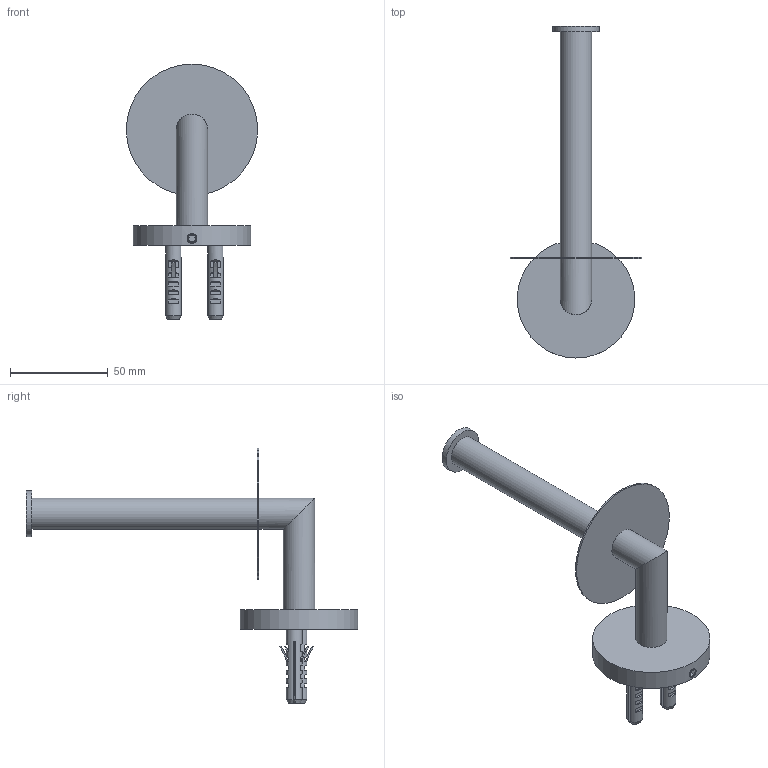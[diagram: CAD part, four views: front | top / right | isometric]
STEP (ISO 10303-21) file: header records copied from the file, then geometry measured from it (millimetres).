
FILE_DESCRIPTION(/* description */ (''),/* implementation_level */ '2;1');
FILE_NAME(/* name */ 'c:\worker\convert-fusion-mar-2019\tmp\job-1\3\output\files\de508112-8a08-48e9-a563-d3e8cf9a2829\f28002d6-5840-4c77-8abd-8bbc1774b381.zip.stp',/* time_stamp */ '2019-03-22T07:49:42+00:00',/* author */ (''),/* organization */ (''),/* preprocessor_version */ 'ST-DEVELOPER v17.2',/* originating_system */ 'Autodesk Translation Framework v7.6.0.251',/* authorisation */ '');
FILE_SCHEMA (('AUTOMOTIVE_DESIGN { 1 0 10303 214 3 1 1 }'));
Products named in the file (1): !MP60530
Bounding box: 67 x 169.3 x 130.5 mm (x, y, z)
Volume: 37133.1 mm3; surface area: 44337.5 mm2
Topology: 16 solids, 16 shells, 698 faces, 1846 edges, 1204 vertices
Faces by surface type: plane 287, cylinder 228, bspline 137, cone 30, torus 16
Full cylindrical faces by diameter (mm): 3.8 x62, 4.2 x4, 5 x41, 5.126 x2, 6 x1, 7.5 x2, 8 x2, 11 x1, 14.3 x1, 14.4 x1, 16 x3, 23.5 x1, 60 x1, 67 x1
Entity records: 64732 total; most frequent: CARTESIAN_POINT 48557, ORIENTED_EDGE 3674, DIRECTION 2862, EDGE_CURVE 1837, VERTEX_POINT 1202, AXIS2_PLACEMENT_3D 988, LINE 886, VECTOR 886
